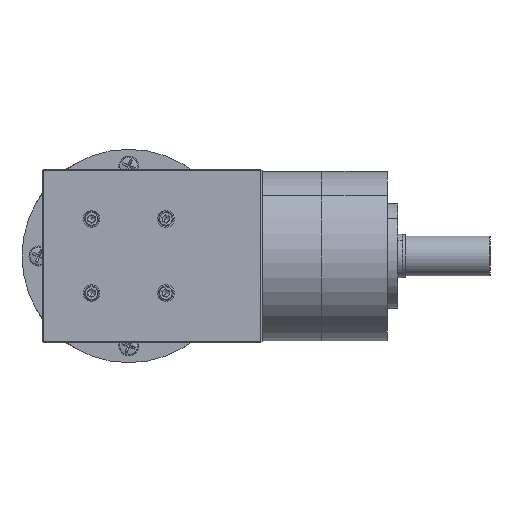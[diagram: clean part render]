
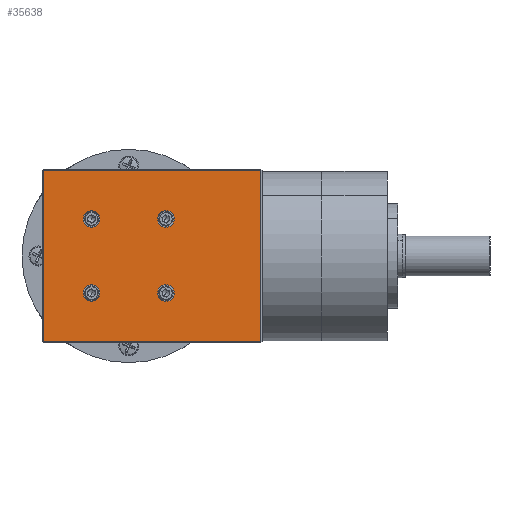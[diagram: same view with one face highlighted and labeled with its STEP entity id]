
A CAD part, front view. The second image highlights one B-rep face of the part: STEP entity #35638.
In plain terms, the highlighted planar face has unit normal (0, -1, 0).
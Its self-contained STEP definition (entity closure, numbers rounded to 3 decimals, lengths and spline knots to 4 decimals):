
#330 = EDGE_LOOP ( 'NONE', ( #19811, #39621, #19888, #9788 ) ) ;
#366 = ORIENTED_EDGE ( 'NONE', *, *, #30952, .F. ) ;
#929 = CARTESIAN_POINT ( 'NONE',  ( 6.7208, 0.3613, 2.0299 ) ) ;
#2548 = DIRECTION ( 'NONE',  ( 0., 0., -1. ) ) ;
#4295 = AXIS2_PLACEMENT_3D ( 'NONE', #31029, #27439, #45267 ) ;
#4684 = FACE_BOUND ( 'NONE', #47567, .T. ) ;
#4842 = CARTESIAN_POINT ( 'NONE',  ( 5.7923, 0.3613, 4.4877 ) ) ;
#5038 = DIRECTION ( 'NONE',  ( -1., 0., 0. ) ) ;
#5571 = EDGE_CURVE ( 'NONE', #12541, #43865, #8549, .T. ) ;
#5753 = DIRECTION ( 'NONE',  ( 0., 0., -1. ) ) ;
#6188 = DIRECTION ( 'NONE',  ( 0., -1., 0. ) ) ;
#6625 = CARTESIAN_POINT ( 'NONE',  ( 8.1138, 0.3613, 2.1862 ) ) ;
#7688 = VERTEX_POINT ( 'NONE', #9021 ) ;
#8549 = CIRCLE ( 'NONE', #49857, 0.1563 ) ;
#9021 = CARTESIAN_POINT ( 'NONE',  ( 6.7208, 0.3613, 3.7354 ) ) ;
#9788 = ORIENTED_EDGE ( 'NONE', *, *, #52216, .T. ) ;
#9840 = AXIS2_PLACEMENT_3D ( 'NONE', #29207, #15780, #15966 ) ;
#9972 = DIRECTION ( 'NONE',  ( 0., 0., -1. ) ) ;
#9981 = EDGE_CURVE ( 'NONE', #14755, #7688, #21575, .T. ) ;
#10060 = CARTESIAN_POINT ( 'NONE',  ( 5.7923, 0.3613, 4.5077 ) ) ;
#11551 = ORIENTED_EDGE ( 'NONE', *, *, #18206, .F. ) ;
#12034 = LINE ( 'NONE', #18614, #24931 ) ;
#12233 = CIRCLE ( 'NONE', #21933, 0.1563 ) ;
#12541 = VERTEX_POINT ( 'NONE', #25231 ) ;
#13451 = EDGE_CURVE ( 'NONE', #7688, #14755, #38968, .T. ) ;
#13505 = CARTESIAN_POINT ( 'NONE',  ( 8.1138, 0.3613, 3.4229 ) ) ;
#14187 = DIRECTION ( 'NONE',  ( 0., 0., 1. ) ) ;
#14221 = VECTOR ( 'NONE', #5038, 39.3701 ) ;
#14755 = VERTEX_POINT ( 'NONE', #38578 ) ;
#14962 = CARTESIAN_POINT ( 'NONE',  ( 9.8973, 0.3613, 1.2777 ) ) ;
#15209 = DIRECTION ( 'NONE',  ( 0., -1., 0. ) ) ;
#15362 = VERTEX_POINT ( 'NONE', #16916 ) ;
#15780 = DIRECTION ( 'NONE',  ( 0., -1., 0. ) ) ;
#15966 = DIRECTION ( 'NONE',  ( 0., 0., -1. ) ) ;
#16198 = FACE_BOUND ( 'NONE', #43105, .T. ) ;
#16916 = CARTESIAN_POINT ( 'NONE',  ( 8.1138, 0.3613, 2.0299 ) ) ;
#18169 = EDGE_CURVE ( 'NONE', #27393, #48721, #19658, .T. ) ;
#18206 = EDGE_CURVE ( 'NONE', #27355, #37987, #41968, .T. ) ;
#18475 = DIRECTION ( 'NONE',  ( 0., -1., 0. ) ) ;
#18614 = CARTESIAN_POINT ( 'NONE',  ( 9.8973, 0.3613, 4.5077 ) ) ;
#19656 = EDGE_CURVE ( 'NONE', #43865, #12541, #52160, .T. ) ;
#19658 = LINE ( 'NONE', #4842, #14221 ) ;
#19811 = ORIENTED_EDGE ( 'NONE', *, *, #27628, .T. ) ;
#19888 = ORIENTED_EDGE ( 'NONE', *, *, #18169, .T. ) ;
#20142 = DIRECTION ( 'NONE',  ( 0., -1., 0. ) ) ;
#21318 = AXIS2_PLACEMENT_3D ( 'NONE', #53129, #18475, #27187 ) ;
#21575 = CIRCLE ( 'NONE', #4295, 0.1562 ) ;
#21766 = CIRCLE ( 'NONE', #44722, 0.1563 ) ;
#21933 = AXIS2_PLACEMENT_3D ( 'NONE', #6625, #23336, #53424 ) ;
#22467 = CARTESIAN_POINT ( 'NONE',  ( 8.1138, 0.3613, 2.3424 ) ) ;
#22488 = ORIENTED_EDGE ( 'NONE', *, *, #19656, .F. ) ;
#23005 = ORIENTED_EDGE ( 'NONE', *, *, #5571, .F. ) ;
#23263 = CARTESIAN_POINT ( 'NONE',  ( 8.1138, 0.3613, 2.1862 ) ) ;
#23336 = DIRECTION ( 'NONE',  ( 0., -1., 0. ) ) ;
#24197 = LINE ( 'NONE', #40199, #39743 ) ;
#24931 = VECTOR ( 'NONE', #53257, 39.3701 ) ;
#25231 = CARTESIAN_POINT ( 'NONE',  ( 8.1138, 0.3613, 3.7354 ) ) ;
#25662 = CARTESIAN_POINT ( 'NONE',  ( 9.8973, 0.3613, 4.4877 ) ) ;
#25878 = ORIENTED_EDGE ( 'NONE', *, *, #9981, .F. ) ;
#27187 = DIRECTION ( 'NONE',  ( 0., 0., -1. ) ) ;
#27355 = VERTEX_POINT ( 'NONE', #43228 ) ;
#27393 = VERTEX_POINT ( 'NONE', #25662 ) ;
#27439 = DIRECTION ( 'NONE',  ( 0., -1., 0. ) ) ;
#27543 = CARTESIAN_POINT ( 'NONE',  ( 6.7208, 0.3613, 3.5792 ) ) ;
#27628 = EDGE_CURVE ( 'NONE', #50924, #45649, #38714, .T. ) ;
#28842 = CARTESIAN_POINT ( 'NONE',  ( 6.7208, 0.3613, 2.1862 ) ) ;
#29207 = CARTESIAN_POINT ( 'NONE',  ( 8.1138, 0.3613, 3.5792 ) ) ;
#29732 = FACE_BOUND ( 'NONE', #40263, .T. ) ;
#30952 = EDGE_CURVE ( 'NONE', #15362, #52215, #51824, .T. ) ;
#31029 = CARTESIAN_POINT ( 'NONE',  ( 6.7208, 0.3613, 3.5792 ) ) ;
#31084 = FACE_OUTER_BOUND ( 'NONE', #330, .T. ) ;
#31467 = DIRECTION ( 'NONE',  ( 1., 0., 0. ) ) ;
#31519 = EDGE_LOOP ( 'NONE', ( #37990, #11551 ) ) ;
#31874 = CARTESIAN_POINT ( 'NONE',  ( 8.1138, 0.3613, 3.5792 ) ) ;
#32409 = DIRECTION ( 'NONE',  ( 0., 0., -1. ) ) ;
#32626 = DIRECTION ( 'NONE',  ( 0., 0., -1. ) ) ;
#33930 = ORIENTED_EDGE ( 'NONE', *, *, #45629, .F. ) ;
#35638 = ADVANCED_FACE ( 'NONE', ( #31084, #29732, #43322, #16198, #4684 ), #39911, .F. ) ;
#35987 = CARTESIAN_POINT ( 'NONE',  ( 5.7923, 0.3613, 1.2777 ) ) ;
#36272 = ORIENTED_EDGE ( 'NONE', *, *, #13451, .F. ) ;
#37213 = AXIS2_PLACEMENT_3D ( 'NONE', #23263, #6188, #2548 ) ;
#37987 = VERTEX_POINT ( 'NONE', #929 ) ;
#37990 = ORIENTED_EDGE ( 'NONE', *, *, #45196, .F. ) ;
#38578 = CARTESIAN_POINT ( 'NONE',  ( 6.7208, 0.3613, 3.4229 ) ) ;
#38714 = LINE ( 'NONE', #35987, #51654 ) ;
#38785 = EDGE_CURVE ( 'NONE', #45649, #27393, #12034, .T. ) ;
#38968 = CIRCLE ( 'NONE', #41785, 0.1562 ) ;
#39621 = ORIENTED_EDGE ( 'NONE', *, *, #38785, .T. ) ;
#39743 = VECTOR ( 'NONE', #5753, 39.3701 ) ;
#39911 = PLANE ( 'NONE',  #45204 ) ;
#39941 = CARTESIAN_POINT ( 'NONE',  ( 5.8123, 0.3613, 1.2777 ) ) ;
#40145 = CARTESIAN_POINT ( 'NONE',  ( 5.8123, 0.3613, 4.4877 ) ) ;
#40199 = CARTESIAN_POINT ( 'NONE',  ( 5.8123, 0.3613, 4.5077 ) ) ;
#40263 = EDGE_LOOP ( 'NONE', ( #25878, #36272 ) ) ;
#41785 = AXIS2_PLACEMENT_3D ( 'NONE', #27543, #15209, #32409 ) ;
#41968 = CIRCLE ( 'NONE', #21318, 0.1563 ) ;
#43105 = EDGE_LOOP ( 'NONE', ( #366, #33930 ) ) ;
#43228 = CARTESIAN_POINT ( 'NONE',  ( 6.7208, 0.3613, 2.3424 ) ) ;
#43322 = FACE_BOUND ( 'NONE', #31519, .T. ) ;
#43865 = VERTEX_POINT ( 'NONE', #13505 ) ;
#44276 = DIRECTION ( 'NONE',  ( 0., 1., 0. ) ) ;
#44582 = DIRECTION ( 'NONE',  ( 0., -1., 0. ) ) ;
#44722 = AXIS2_PLACEMENT_3D ( 'NONE', #28842, #20142, #32626 ) ;
#45196 = EDGE_CURVE ( 'NONE', #37987, #27355, #21766, .T. ) ;
#45204 = AXIS2_PLACEMENT_3D ( 'NONE', #10060, #44276, #14187 ) ;
#45267 = DIRECTION ( 'NONE',  ( 0., 0., -1. ) ) ;
#45629 = EDGE_CURVE ( 'NONE', #52215, #15362, #12233, .T. ) ;
#45649 = VERTEX_POINT ( 'NONE', #14962 ) ;
#47567 = EDGE_LOOP ( 'NONE', ( #22488, #23005 ) ) ;
#48721 = VERTEX_POINT ( 'NONE', #40145 ) ;
#49857 = AXIS2_PLACEMENT_3D ( 'NONE', #31874, #44582, #9972 ) ;
#50924 = VERTEX_POINT ( 'NONE', #39941 ) ;
#51654 = VECTOR ( 'NONE', #31467, 39.3701 ) ;
#51824 = CIRCLE ( 'NONE', #37213, 0.1563 ) ;
#52160 = CIRCLE ( 'NONE', #9840, 0.1563 ) ;
#52215 = VERTEX_POINT ( 'NONE', #22467 ) ;
#52216 = EDGE_CURVE ( 'NONE', #48721, #50924, #24197, .T. ) ;
#53129 = CARTESIAN_POINT ( 'NONE',  ( 6.7208, 0.3613, 2.1862 ) ) ;
#53257 = DIRECTION ( 'NONE',  ( 0., 0., 1. ) ) ;
#53424 = DIRECTION ( 'NONE',  ( 0., 0., -1. ) ) ;
